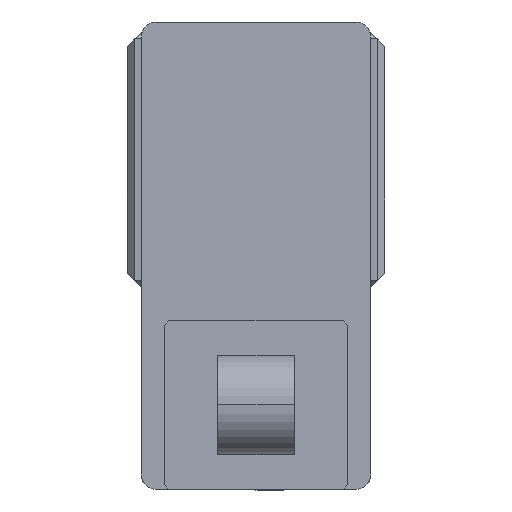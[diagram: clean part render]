
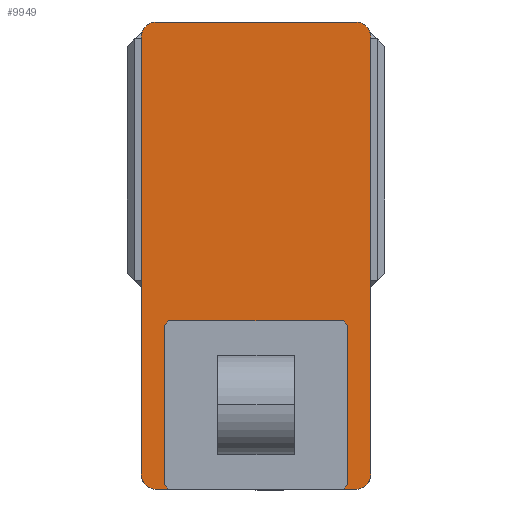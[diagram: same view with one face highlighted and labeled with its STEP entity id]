
A CAD part, left-side view. The second image highlights one B-rep face of the part: STEP entity #9949.
In plain terms, the highlighted planar face has unit normal (-1, 0, 0) as drawn and (0, 0, 1) by its records, which use the part's own axes.
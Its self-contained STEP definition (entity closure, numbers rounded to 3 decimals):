
#450 = DIRECTION ( 'NONE',  ( 0., -1., 0. ) ) ;
#538 = DIRECTION ( 'NONE',  ( -1., 0., 0. ) ) ;
#826 = CARTESIAN_POINT ( 'NONE',  ( 0., 0., 105. ) ) ;
#863 = LINE ( 'NONE', #9564, #10210 ) ;
#1085 = AXIS2_PLACEMENT_3D ( 'NONE', #826, #7175, #1768 ) ;
#1154 = DIRECTION ( 'NONE',  ( 0., 0., 1. ) ) ;
#1159 = EDGE_CURVE ( 'NONE', #10017, #4285, #9479, .T. ) ;
#1387 = DIRECTION ( 'NONE',  ( 0., 0., 1. ) ) ;
#1399 = ORIENTED_EDGE ( 'NONE', *, *, #11029, .T. ) ;
#1768 = DIRECTION ( 'NONE',  ( 1., 0., 0. ) ) ;
#1770 = VERTEX_POINT ( 'NONE', #6414 ) ;
#1802 = EDGE_CURVE ( 'NONE', #6665, #10017, #6223, .T. ) ;
#1853 = DIRECTION ( 'NONE',  ( 1., 0., 0. ) ) ;
#1937 = ORIENTED_EDGE ( 'NONE', *, *, #11435, .T. ) ;
#2101 = DIRECTION ( 'NONE',  ( 1., 0., 0. ) ) ;
#2136 = CARTESIAN_POINT ( 'NONE',  ( 75., 152.5, 105. ) ) ;
#2138 = CARTESIAN_POINT ( 'NONE',  ( -75., -142.5, 105. ) ) ;
#2395 = ORIENTED_EDGE ( 'NONE', *, *, #5201, .T. ) ;
#2634 = EDGE_LOOP ( 'NONE', ( #3976, #7314, #2395, #1399, #1937, #5169, #10809, #5990 ) ) ;
#2752 = DIRECTION ( 'NONE',  ( 0., 0., 1. ) ) ;
#3030 = DIRECTION ( 'NONE',  ( 0., 1., 0. ) ) ;
#3333 = LINE ( 'NONE', #2136, #7830 ) ;
#3507 = VERTEX_POINT ( 'NONE', #11728 ) ;
#3571 = CARTESIAN_POINT ( 'NONE',  ( 75., 142.5, 105. ) ) ;
#3679 = AXIS2_PLACEMENT_3D ( 'NONE', #6578, #1154, #7474 ) ;
#3959 = CARTESIAN_POINT ( 'NONE',  ( -75., 152.5, 105. ) ) ;
#3976 = ORIENTED_EDGE ( 'NONE', *, *, #4171, .T. ) ;
#4171 = EDGE_CURVE ( 'NONE', #11525, #5156, #4895, .T. ) ;
#4285 = VERTEX_POINT ( 'NONE', #2138 ) ;
#4457 = PLANE ( 'NONE',  #1085 ) ;
#4613 = VECTOR ( 'NONE', #1853, 1000. ) ;
#4769 = CARTESIAN_POINT ( 'NONE',  ( 65., -152.5, 105. ) ) ;
#4895 = LINE ( 'NONE', #5418, #4613 ) ;
#5146 = CIRCLE ( 'NONE', #3679, 10. ) ;
#5156 = VERTEX_POINT ( 'NONE', #4769 ) ;
#5169 = ORIENTED_EDGE ( 'NONE', *, *, #1802, .T. ) ;
#5201 = EDGE_CURVE ( 'NONE', #3507, #8046, #3333, .T. ) ;
#5418 = CARTESIAN_POINT ( 'NONE',  ( -75., -152.5, 105. ) ) ;
#5875 = CIRCLE ( 'NONE', #10856, 10. ) ;
#5990 = ORIENTED_EDGE ( 'NONE', *, *, #9238, .T. ) ;
#6223 = CIRCLE ( 'NONE', #9736, 10. ) ;
#6414 = CARTESIAN_POINT ( 'NONE',  ( 65., 152.5, 105. ) ) ;
#6467 = CARTESIAN_POINT ( 'NONE',  ( -65., 142.5, 105. ) ) ;
#6578 = CARTESIAN_POINT ( 'NONE',  ( 65., -142.5, 105. ) ) ;
#6665 = VERTEX_POINT ( 'NONE', #10904 ) ;
#6797 = CARTESIAN_POINT ( 'NONE',  ( -65., -142.5, 105. ) ) ;
#6865 = DIRECTION ( 'NONE',  ( 0., 0., 1. ) ) ;
#7175 = DIRECTION ( 'NONE',  ( 0., 0., 1. ) ) ;
#7314 = ORIENTED_EDGE ( 'NONE', *, *, #10588, .T. ) ;
#7474 = DIRECTION ( 'NONE',  ( 1., 0., 0. ) ) ;
#7699 = DIRECTION ( 'NONE',  ( 1., 0., 0. ) ) ;
#7815 = CIRCLE ( 'NONE', #9501, 10. ) ;
#7830 = VECTOR ( 'NONE', #3030, 1000. ) ;
#8046 = VERTEX_POINT ( 'NONE', #3571 ) ;
#8109 = CARTESIAN_POINT ( 'NONE',  ( -75., 142.5, 105. ) ) ;
#8143 = CARTESIAN_POINT ( 'NONE',  ( 65., 142.5, 105. ) ) ;
#8409 = FACE_OUTER_BOUND ( 'NONE', #2634, .T. ) ;
#9050 = DIRECTION ( 'NONE',  ( 1., 0., 0. ) ) ;
#9192 = VECTOR ( 'NONE', #450, 1000. ) ;
#9238 = EDGE_CURVE ( 'NONE', #4285, #11525, #5875, .T. ) ;
#9479 = LINE ( 'NONE', #3959, #9192 ) ;
#9501 = AXIS2_PLACEMENT_3D ( 'NONE', #8143, #2752, #9050 ) ;
#9564 = CARTESIAN_POINT ( 'NONE',  ( -75., 152.5, 105. ) ) ;
#9669 = CARTESIAN_POINT ( 'NONE',  ( -65., -152.5, 105. ) ) ;
#9736 = AXIS2_PLACEMENT_3D ( 'NONE', #6467, #6865, #2101 ) ;
#9949 = ADVANCED_FACE ( 'NONE', ( #8409 ), #4457, .T. ) ;
#10017 = VERTEX_POINT ( 'NONE', #8109 ) ;
#10210 = VECTOR ( 'NONE', #538, 1000. ) ;
#10588 = EDGE_CURVE ( 'NONE', #5156, #3507, #5146, .T. ) ;
#10809 = ORIENTED_EDGE ( 'NONE', *, *, #1159, .T. ) ;
#10856 = AXIS2_PLACEMENT_3D ( 'NONE', #6797, #1387, #7699 ) ;
#10904 = CARTESIAN_POINT ( 'NONE',  ( -65., 152.5, 105. ) ) ;
#11029 = EDGE_CURVE ( 'NONE', #8046, #1770, #7815, .T. ) ;
#11435 = EDGE_CURVE ( 'NONE', #1770, #6665, #863, .T. ) ;
#11525 = VERTEX_POINT ( 'NONE', #9669 ) ;
#11728 = CARTESIAN_POINT ( 'NONE',  ( 75., -142.5, 105. ) ) ;
